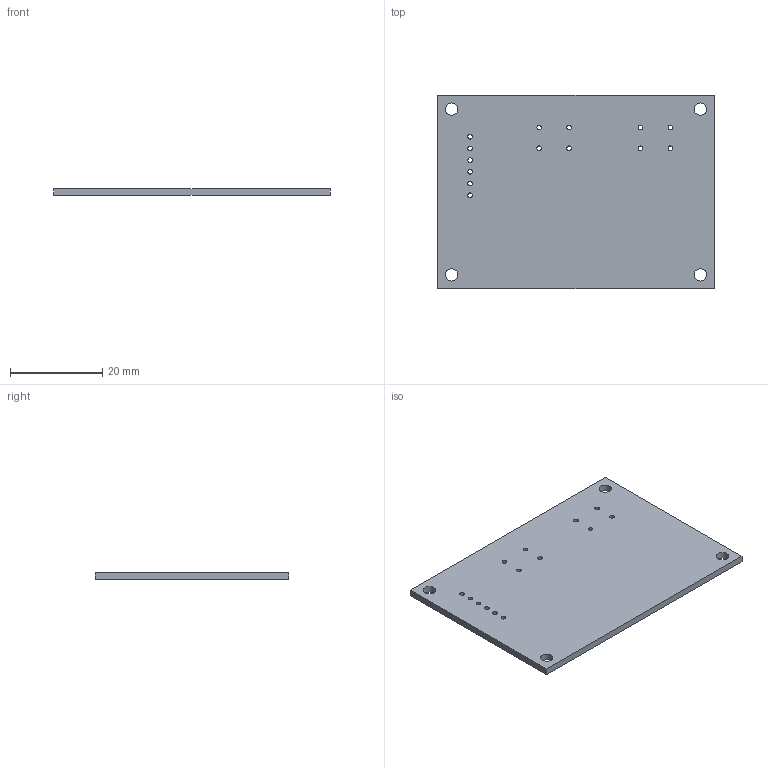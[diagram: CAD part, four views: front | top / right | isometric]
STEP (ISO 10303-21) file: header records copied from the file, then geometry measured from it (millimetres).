
FILE_DESCRIPTION(('KiCad electronic assembly'),'2;1');
FILE_NAME('FF1_Control_A0_board_only.step','2026-11-05T01:15:35',( 'Pcbnew'),('Kicad'),'Open CASCADE STEP processor 7.8', 'KiCad to STEP converter','Unknown');
FILE_SCHEMA(('AUTOMOTIVE_DESIGN { 1 0 10303 214 1 1 1 1 }'));
Length unit declared in the file: millimetre
Products named in the file (2): FF1_Control_A0_board_only 1; FF1_Control_A0_PCB
Assembly tree (1 placements, depth 2):
  FF1_Control_A0_board_only 1
    FF1_Control_A0_PCB
Bounding box: 60 x 42 x 1.51 mm (x, y, z)
Volume: 3754 mm3; surface area: 5397.9 mm2
Topology: 1 solids, 1 shells, 24 faces, 66 edges, 44 vertices
Faces by surface type: cylinder 18, plane 6
Full cylindrical faces by diameter (mm): 1 x14, 2.7 x4
Entity records: 895 total; most frequent: DIRECTION 154, CARTESIAN_POINT 136, ORIENTED_EDGE 132, EDGE_CURVE 66, AXIS2_PLACEMENT_3D 62, FACE_BOUND 60, EDGE_LOOP 60, VERTEX_POINT 44
